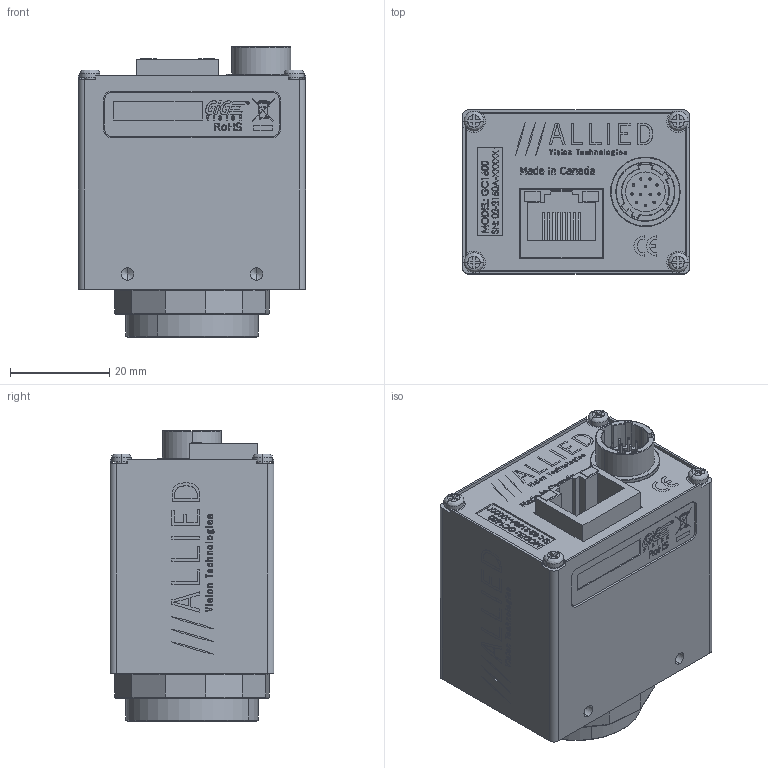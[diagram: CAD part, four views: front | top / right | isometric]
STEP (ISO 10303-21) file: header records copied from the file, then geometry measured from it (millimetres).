
FILE_DESCRIPTION (( 'STEP AP214' ), '1' );
FILE_NAME ('GC1600.STEP', '2013-07-31T18:02:12', ( '' ), ( '' ), 'SwSTEP 2.0', 'SolidWorks 2013', '' );
FILE_SCHEMA (( 'AUTOMOTIVE_DESIGN' ));
Length unit declared in the file: millimetre
Products named in the file (20): 200047A-A GC INTERFACE PCB ASSY; 260033-AMPHENOL RJHS-3381; 110043A GC BACK PLATE; 110043A GC BACK PLATE - WO HW; 740032B-GC MAIN LABEL; 260034-HIROSE HR10A-10R-12PB; 110031A-B EC-CCD LOCKING RING; 140013-washer spring lock M2; 110042C GC-CCD FRONT_Finished with logo; 140023-SCREW SKT CAP M2x10 SS; 110045B-EC-CCD DUST SHIELD GASKET; 140017-SCREW PAN M2x4 SS; GC1600; 740123A-GC MAC LABEL; 740041A-A GC1600M LABEL PRINT; 200042A-EC1600 MONO PCB ASSY; 110003AC-CV CMOUNT RING; 220075-SONY ICX274AL; SONY ICX274 WINDOW; SONY ICX274 BODY
Assembly tree (24 placements, depth 4):
  GC1600
    140017-SCREW PAN M2x4 SS  x4
    110045B-EC-CCD DUST SHIELD GASKET
    140023-SCREW SKT CAP M2x10 SS  x2
    110042C GC-CCD FRONT_Finished with logo
    140013-washer spring lock M2  x2
    110031A-B EC-CCD LOCKING RING
    260034-HIROSE HR10A-10R-12PB
    740032B-GC MAIN LABEL
    110043A GC BACK PLATE
      110043A GC BACK PLATE - WO HW
    200047A-A GC INTERFACE PCB ASSY
      260033-AMPHENOL RJHS-3381
    200042A-EC1600 MONO PCB ASSY
      220075-SONY ICX274AL
        SONY ICX274 BODY
        SONY ICX274 WINDOW
    740041A-A GC1600M LABEL PRINT
    740123A-GC MAC LABEL
    110003AC-CV CMOUNT RING
Bounding box: 45.72 x 33.02 x 58.54 mm (x, y, z)
Volume: 22030.6 mm3; surface area: 31503.6 mm2
Topology: 20 solids, 20 shells, 3243 faces, 8504 edges, 5512 vertices
Faces by surface type: plane 1858, bspline 915, cylinder 286, cone 184
Entity records: 164102 total; most frequent: CARTESIAN_POINT 57467, ORIENTED_EDGE 16328, DIRECTION 11628, EDGE_CURVE 8164, VECTOR 5640, LINE 5640, VERTEX_POINT 5342, EDGE_LOOP 3468
